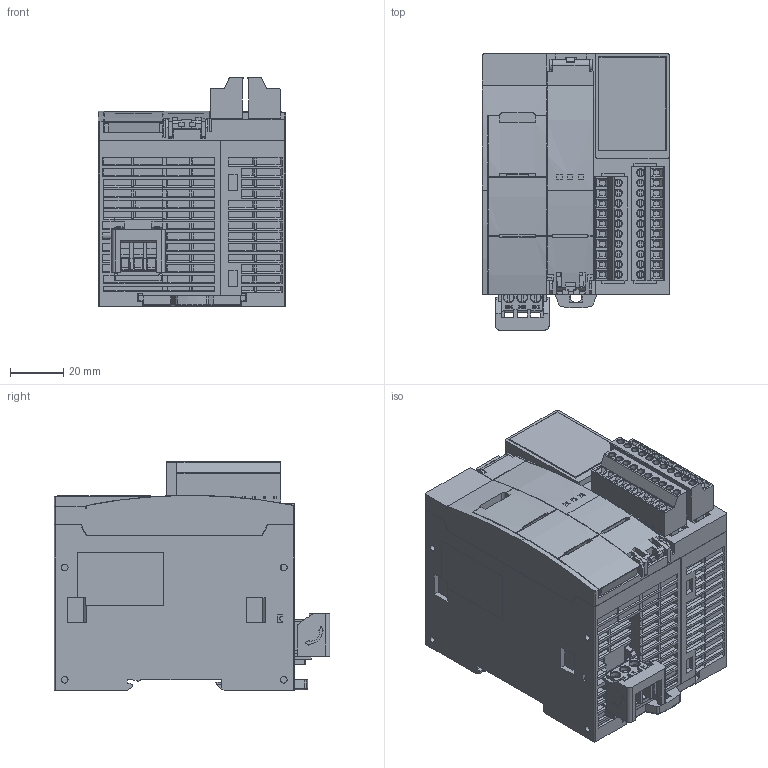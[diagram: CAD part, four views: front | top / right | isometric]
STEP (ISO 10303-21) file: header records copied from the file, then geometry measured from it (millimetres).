
FILE_DESCRIPTION (( 'STEP AP214' ), '1' );
FILE_NAME ('OUTSIDE-FC6A-D16#1CEE.STEP', '2017-06-30T03:53:34', ( '' ), ( '' ), 'SwSTEP 2.0', 'SolidWorks 2014', '' );
FILE_SCHEMA (( 'AUTOMOTIVE_DESIGN' ));
Length unit declared in the file: millimetre
Products named in the file (3): OUTSIDE-FC6A-D16#1CEE-BODY; OUTSIDE-FT1A-DIN-HOOK; OUTSIDE-FC6A-D16#1CEE
Assembly tree (2 placements, depth 2):
  OUTSIDE-FC6A-D16#1CEE
    OUTSIDE-FC6A-D16#1CEE-BODY
    OUTSIDE-FT1A-DIN-HOOK
Bounding box: 70 x 103.3 x 85.65 mm (x, y, z)
Volume: 418281.1 mm3; surface area: 82430.3 mm2
Topology: 2 solids, 2 shells, 3662 faces, 10011 edges, 6476 vertices
Faces by surface type: plane 3008, cylinder 485, bspline 115, cone 34, sphere 20
Entity records: 118780 total; most frequent: CARTESIAN_POINT 26487, ORIENTED_EDGE 19992, DIRECTION 17668, EDGE_CURVE 9996, LINE 8536, VECTOR 8536, VERTEX_POINT 6475, AXIS2_PLACEMENT_3D 4566
